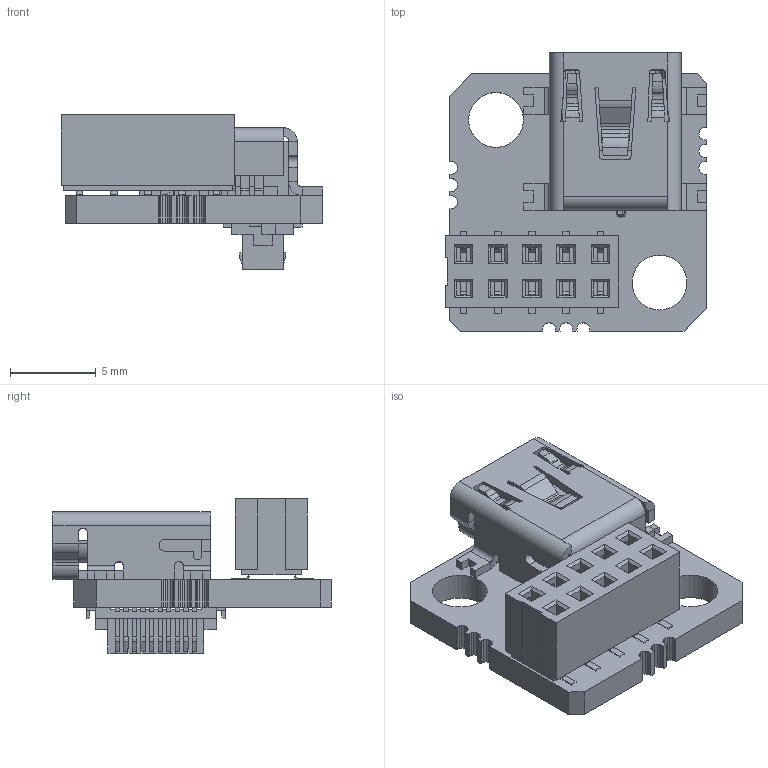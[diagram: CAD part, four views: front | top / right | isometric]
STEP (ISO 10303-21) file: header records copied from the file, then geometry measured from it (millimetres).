
FILE_DESCRIPTION(('Open CASCADE Model'),'2;1');
FILE_NAME('Open CASCADE Shape Model','2013-05-27T07:59:19',('Author'),( 'Open CASCADE'),'Open CASCADE STEP processor 6.2','Open CASCADE 6.2' ,'Unknown');
FILE_SCHEMA(('AUTOMOTIVE_DESIGN { 1 0 10303 214 1 1 1 1 }'));
Length unit declared in the file: millimetre
Products named in the file (8): PCB; Board; J1; SW3dPS_USB_mini_B_step; J3; 10pinfemale; J2; DF12-20DS-0.5V
Assembly tree (7 placements, depth 3):
  PCB
    Board
    J1
      SW3dPS_USB_mini_B_step
    J3
      10pinfemale
    J2
      DF12-20DS-0.5V
Bounding box: 15.29 x 16.24 x 9 mm (x, y, z)
Volume: 698.7 mm3; surface area: 1694.7 mm2
Topology: 9 solids, 19 shells, 1386 faces, 3849 edges, 2460 vertices
Faces by surface type: plane 1226, cylinder 120, bspline 36, cone 4
Full cylindrical faces by diameter (mm): 0.55 x2, 1 x2, 3.2 x2
Entity records: 98836 total; most frequent: CARTESIAN_POINT 22640, DIRECTION 13559, LINE 10301, VECTOR 10301, ORIENTED_EDGE 7698, PCURVE 7698, DEFINITIONAL_REPRESENTATION 7698, EDGE_CURVE 3849
